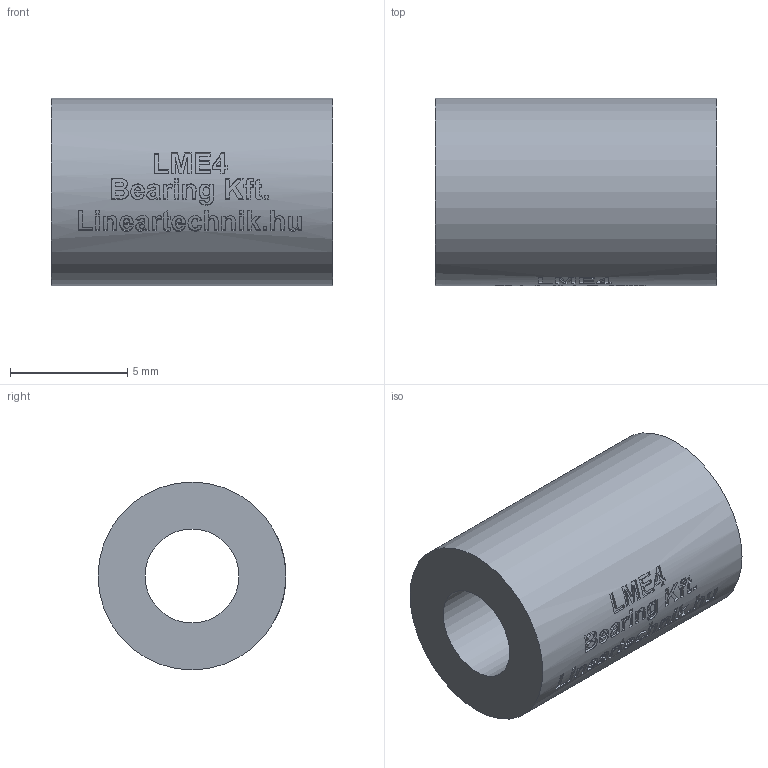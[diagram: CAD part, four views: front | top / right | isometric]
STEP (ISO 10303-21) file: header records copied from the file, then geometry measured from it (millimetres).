
FILE_DESCRIPTION(/* description */ (''),/* implementation_level */ '2;1');
FILE_NAME(/* name */ 'LME4',/* time_stamp */ '2019-05-17T10:33:28+02:00',/* author */ ('VĂ©gh MĂˇtĂ©'),/* organization */ ('Bearing Kft'),/* preprocessor_version */ 'ST-DEVELOPER v16.7',/* originating_system */ 'DEX',/* authorisation */ $);
FILE_SCHEMA (('AUTOMOTIVE_DESIGN {1 0 10303 214 3 1 1}'));
Length unit declared in the file: millimetre
Products named in the file (1): LME4
Bounding box: 12 x 8 x 8 mm (x, y, z)
Volume: 451.7 mm3; surface area: 537.9 mm2
Topology: 1 solids, 1 shells, 298 faces, 759 edges, 506 vertices
Faces by surface type: plane 167, bspline 86, cylinder 45
Full cylindrical faces by diameter (mm): 4 x1, 8 x1
Entity records: 12962 total; most frequent: CARTESIAN_POINT 6159, ORIENTED_EDGE 1512, DIRECTION 1158, EDGE_CURVE 756, VERTEX_POINT 506, LINE 428, VECTOR 428, AXIS2_PLACEMENT_3D 365
